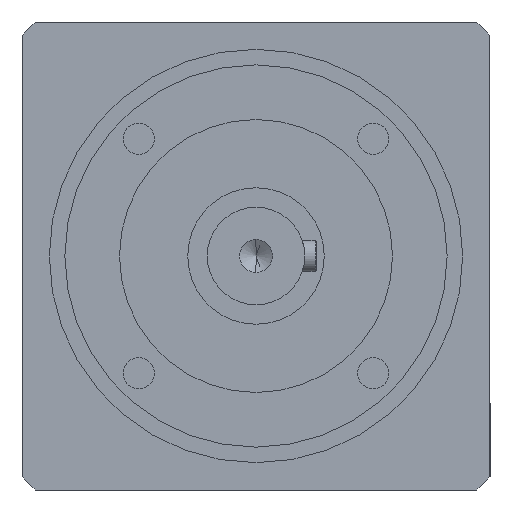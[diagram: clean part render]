
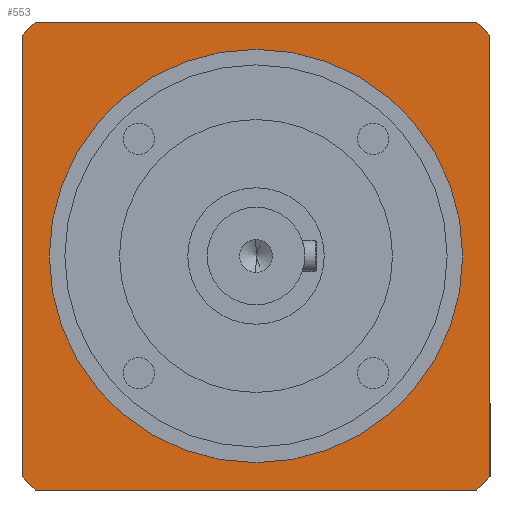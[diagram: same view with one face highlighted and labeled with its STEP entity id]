
A CAD part, left-side view. The second image highlights one B-rep face of the part: STEP entity #553.
In plain terms, the highlighted planar face has unit normal (-1, 0, 0).
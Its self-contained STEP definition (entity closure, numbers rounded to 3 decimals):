
#139 = CARTESIAN_POINT ( 'NONE',  ( 0., 0., 0. ) ) ;
#199 = VECTOR ( 'NONE', #897, 1000. ) ;
#231 = DIRECTION ( 'NONE',  ( -1., 0., 0. ) ) ;
#242 = ORIENTED_EDGE ( 'NONE', *, *, #4718, .T. ) ;
#278 = ORIENTED_EDGE ( 'NONE', *, *, #4072, .T. ) ;
#304 = CARTESIAN_POINT ( 'NONE',  ( 0., 0., 45. ) ) ;
#307 = CIRCLE ( 'NONE', #2793, 82.5 ) ;
#372 = VERTEX_POINT ( 'NONE', #4237 ) ;
#420 = EDGE_CURVE ( 'NONE', #5355, #1290, #1951, .T. ) ;
#433 = VERTEX_POINT ( 'NONE', #3474 ) ;
#516 = CARTESIAN_POINT ( 'NONE',  ( 0., 56.624, -60. ) ) ;
#553 = ADVANCED_FACE ( 'NONE', ( #4810, #5454 ), #4372, .T. ) ;
#636 = ORIENTED_EDGE ( 'NONE', *, *, #5444, .T. ) ;
#673 = AXIS2_PLACEMENT_3D ( 'NONE', #895, #1336, #1778 ) ;
#676 = DIRECTION ( 'NONE',  ( 0., 0., 1. ) ) ;
#762 = DIRECTION ( 'NONE',  ( -1., 0., 0. ) ) ;
#786 = DIRECTION ( 'NONE',  ( 0., 0., -1. ) ) ;
#807 = CARTESIAN_POINT ( 'NONE',  ( 0., 60., 56.624 ) ) ;
#815 = AXIS2_PLACEMENT_3D ( 'NONE', #139, #4467, #3147 ) ;
#887 = CARTESIAN_POINT ( 'NONE',  ( 0., 0., 0. ) ) ;
#895 = CARTESIAN_POINT ( 'NONE',  ( 0., 0., 0. ) ) ;
#897 = DIRECTION ( 'NONE',  ( 0., 0., 1. ) ) ;
#925 = CARTESIAN_POINT ( 'NONE',  ( 0., 0., -45. ) ) ;
#956 = VERTEX_POINT ( 'NONE', #1963 ) ;
#1020 = ORIENTED_EDGE ( 'NONE', *, *, #2194, .T. ) ;
#1100 = VERTEX_POINT ( 'NONE', #516 ) ;
#1290 = VERTEX_POINT ( 'NONE', #2439 ) ;
#1304 = VERTEX_POINT ( 'NONE', #304 ) ;
#1336 = DIRECTION ( 'NONE',  ( -1., 0., 0. ) ) ;
#1366 = VERTEX_POINT ( 'NONE', #2213 ) ;
#1378 = ORIENTED_EDGE ( 'NONE', *, *, #2894, .T. ) ;
#1498 = ORIENTED_EDGE ( 'NONE', *, *, #4344, .T. ) ;
#1525 = CARTESIAN_POINT ( 'NONE',  ( 0., 0., 0. ) ) ;
#1526 = EDGE_LOOP ( 'NONE', ( #636, #5018 ) ) ;
#1580 = DIRECTION ( 'NONE',  ( 1., 0., 0. ) ) ;
#1645 = DIRECTION ( 'NONE',  ( 0., 0., 1. ) ) ;
#1710 = CARTESIAN_POINT ( 'NONE',  ( 0., 0., 0. ) ) ;
#1778 = DIRECTION ( 'NONE',  ( 0., 0., 1. ) ) ;
#1838 = CARTESIAN_POINT ( 'NONE',  ( 0., 0., 60. ) ) ;
#1942 = CIRCLE ( 'NONE', #815, 45. ) ;
#1951 = CIRCLE ( 'NONE', #5381, 82.5 ) ;
#1963 = CARTESIAN_POINT ( 'NONE',  ( 0., 60., -56.624 ) ) ;
#2009 = VERTEX_POINT ( 'NONE', #807 ) ;
#2032 = VECTOR ( 'NONE', #786, 1000. ) ;
#2055 = DIRECTION ( 'NONE',  ( 0., -1., 0. ) ) ;
#2176 = AXIS2_PLACEMENT_3D ( 'NONE', #1525, #762, #2417 ) ;
#2186 = LINE ( 'NONE', #1838, #5503 ) ;
#2194 = EDGE_CURVE ( 'NONE', #1366, #433, #3163, .T. ) ;
#2213 = CARTESIAN_POINT ( 'NONE',  ( 0., -60., 56.624 ) ) ;
#2222 = ORIENTED_EDGE ( 'NONE', *, *, #420, .T. ) ;
#2417 = DIRECTION ( 'NONE',  ( 0., 0., 1. ) ) ;
#2439 = CARTESIAN_POINT ( 'NONE',  ( 0., -60., -56.624 ) ) ;
#2494 = CARTESIAN_POINT ( 'NONE',  ( 0., 0., -60. ) ) ;
#2517 = EDGE_CURVE ( 'NONE', #5076, #1304, #5284, .T. ) ;
#2537 = DIRECTION ( 'NONE',  ( -1., 0., 0. ) ) ;
#2793 = AXIS2_PLACEMENT_3D ( 'NONE', #2827, #231, #676 ) ;
#2827 = CARTESIAN_POINT ( 'NONE',  ( 0., 0., 0. ) ) ;
#2894 = EDGE_CURVE ( 'NONE', #1100, #5355, #3461, .T. ) ;
#3119 = VECTOR ( 'NONE', #2055, 1000. ) ;
#3147 = DIRECTION ( 'NONE',  ( 0., 0., 1. ) ) ;
#3163 = CIRCLE ( 'NONE', #4742, 82.5 ) ;
#3165 = LINE ( 'NONE', #5567, #2032 ) ;
#3267 = EDGE_LOOP ( 'NONE', ( #1378, #2222, #4273, #1020, #4732, #1498, #278, #242 ) ) ;
#3445 = CARTESIAN_POINT ( 'NONE',  ( 0., -60., 0. ) ) ;
#3461 = LINE ( 'NONE', #2494, #3119 ) ;
#3474 = CARTESIAN_POINT ( 'NONE',  ( 0., -56.624, 60. ) ) ;
#3516 = CARTESIAN_POINT ( 'NONE',  ( 0., -56.624, -60. ) ) ;
#3519 = LINE ( 'NONE', #3445, #199 ) ;
#3600 = EDGE_CURVE ( 'NONE', #1290, #1366, #3519, .T. ) ;
#3961 = DIRECTION ( 'NONE',  ( 0., 1., 0. ) ) ;
#4072 = EDGE_CURVE ( 'NONE', #2009, #956, #3165, .T. ) ;
#4106 = CIRCLE ( 'NONE', #2176, 82.5 ) ;
#4207 = CARTESIAN_POINT ( 'NONE',  ( 0., 0., 0. ) ) ;
#4237 = CARTESIAN_POINT ( 'NONE',  ( 0., 56.624, 60. ) ) ;
#4273 = ORIENTED_EDGE ( 'NONE', *, *, #3600, .T. ) ;
#4344 = EDGE_CURVE ( 'NONE', #372, #2009, #307, .T. ) ;
#4369 = DIRECTION ( 'NONE',  ( 0., 0., 1. ) ) ;
#4372 = PLANE ( 'NONE',  #673 ) ;
#4467 = DIRECTION ( 'NONE',  ( 1., 0., 0. ) ) ;
#4623 = DIRECTION ( 'NONE',  ( 0., 0., 1. ) ) ;
#4718 = EDGE_CURVE ( 'NONE', #956, #1100, #4106, .T. ) ;
#4732 = ORIENTED_EDGE ( 'NONE', *, *, #5611, .T. ) ;
#4742 = AXIS2_PLACEMENT_3D ( 'NONE', #1710, #2537, #1645 ) ;
#4801 = DIRECTION ( 'NONE',  ( -1., 0., 0. ) ) ;
#4810 = FACE_BOUND ( 'NONE', #1526, .T. ) ;
#5018 = ORIENTED_EDGE ( 'NONE', *, *, #2517, .T. ) ;
#5076 = VERTEX_POINT ( 'NONE', #925 ) ;
#5284 = CIRCLE ( 'NONE', #5582, 45. ) ;
#5355 = VERTEX_POINT ( 'NONE', #3516 ) ;
#5381 = AXIS2_PLACEMENT_3D ( 'NONE', #887, #4801, #4369 ) ;
#5444 = EDGE_CURVE ( 'NONE', #1304, #5076, #1942, .T. ) ;
#5454 = FACE_OUTER_BOUND ( 'NONE', #3267, .T. ) ;
#5503 = VECTOR ( 'NONE', #3961, 1000. ) ;
#5567 = CARTESIAN_POINT ( 'NONE',  ( 0., 60., 0. ) ) ;
#5582 = AXIS2_PLACEMENT_3D ( 'NONE', #4207, #1580, #4623 ) ;
#5611 = EDGE_CURVE ( 'NONE', #433, #372, #2186, .T. ) ;
